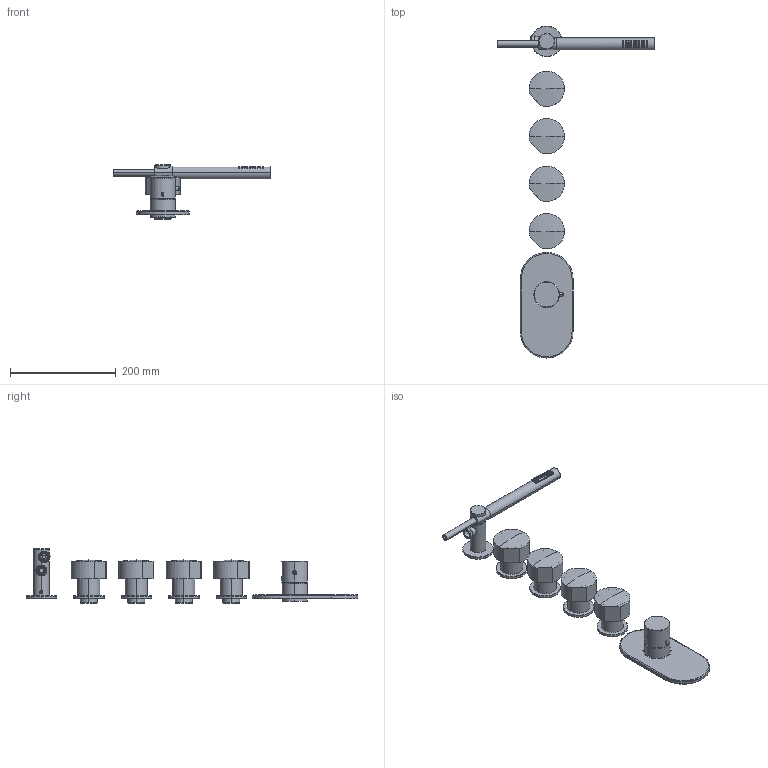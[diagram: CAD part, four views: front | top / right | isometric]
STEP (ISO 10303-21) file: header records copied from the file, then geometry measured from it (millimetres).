
FILE_DESCRIPTION((''),'2;1');
FILE_NAME('F3178X4_FILE_3D','2019-05-06T',('ivanv'),(''),'CREO PARAMETRIC BY PTC INC, 2016260','CREO PARAMETRIC BY PTC INC, 2016260','');
FILE_SCHEMA(('CONFIG_CONTROL_DESIGN'));
Products named in the file (1): F3178X4_FILE_3D
Bounding box: 299 x 629 x 102.5 mm (x, y, z)
Volume: 375668.1 mm3; surface area: 272974.7 mm2
Topology: 15 solids, 20 shells, 2027 faces, 5032 edges, 3191 vertices
Faces by surface type: plane 908, cylinder 662, cone 231, extrusion 79, torus 74, bspline 49, sphere 24
Entity records: 82534 total; most frequent: CARTESIAN_POINT 36208, ORIENTED_EDGE 10040, DIRECTION 8875, EDGE_CURVE 5020, AXIS2_PLACEMENT_3D 3356, VERTEX_POINT 3191, EDGE_LOOP 2225, VECTOR 2163
